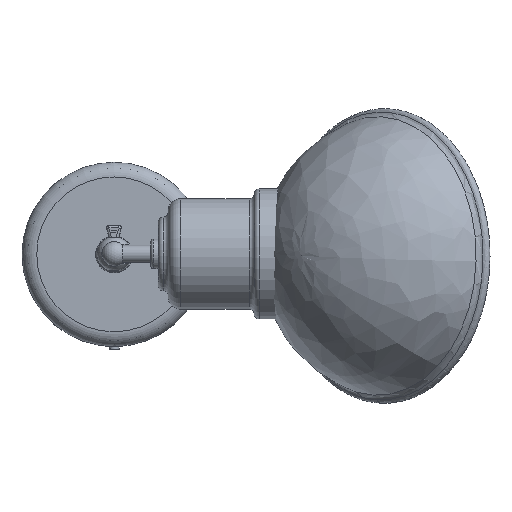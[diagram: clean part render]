
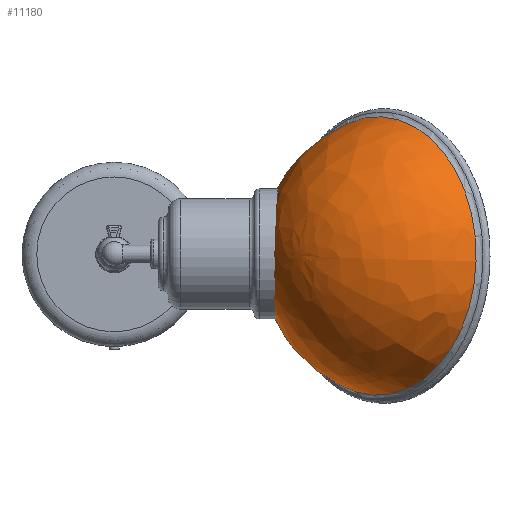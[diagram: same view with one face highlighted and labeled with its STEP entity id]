
A CAD part, top view. The second image highlights one B-rep face of the part: STEP entity #11180.
In plain terms, the highlighted free-form (B-spline) face has degree [2, 2] with [3, 9] control points.
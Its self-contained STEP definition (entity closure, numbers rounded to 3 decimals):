
#385=(
BOUNDED_SURFACE()
B_SPLINE_SURFACE(2,2,((#19386,#19387,#19388,#19389,#19390,#19391,#19392,
#19393,#19394),(#19395,#19396,#19397,#19398,#19399,#19400,#19401,#19402,
#19403),(#19404,#19405,#19406,#19407,#19408,#19409,#19410,#19411,#19412)),
 .UNSPECIFIED.,.F.,.T.,.F.)
B_SPLINE_SURFACE_WITH_KNOTS((3,3),(3,2,2,2,3),(0.269,1.551),
(-3.142,-1.571,0.,1.571,3.142),
 .UNSPECIFIED.)
GEOMETRIC_REPRESENTATION_ITEM()
RATIONAL_B_SPLINE_SURFACE(((1.,0.707,1.,0.707,1.,
0.707,1.,0.707,1.),(0.801,0.567,
0.801,0.567,0.801,0.567,
0.801,0.567,0.801),(1.,0.707,
1.,0.707,1.,0.707,1.,0.707,1.)))
REPRESENTATION_ITEM('')
SURFACE()
);
#2180=FACE_OUTER_BOUND('',#2931,.T.);
#2931=EDGE_LOOP('',(#7740,#7741,#7742,#7743));
#3703=CIRCLE('',#12217,56.68);
#3704=CIRCLE('',#12218,56.68);
#3705=CIRCLE('',#12219,60.);
#4775=VERTEX_POINT('',#19381);
#4776=VERTEX_POINT('',#19383);
#4777=VERTEX_POINT('',#19413);
#5872=EDGE_CURVE('',#4776,#4775,#3703,.T.);
#5873=EDGE_CURVE('',#4775,#4776,#3704,.T.);
#5874=EDGE_CURVE('',#4777,#4775,#3705,.T.);
#7740=ORIENTED_EDGE('',*,*,#5874,.T.);
#7741=ORIENTED_EDGE('',*,*,#5873,.T.);
#7742=ORIENTED_EDGE('',*,*,#5872,.T.);
#7743=ORIENTED_EDGE('',*,*,#5874,.F.);
#11180=ADVANCED_FACE('',(#2180),#385,.F.);
#12217=AXIS2_PLACEMENT_3D('',#19384,#14107,#14108);
#12218=AXIS2_PLACEMENT_3D('',#19385,#14109,#14110);
#12219=AXIS2_PLACEMENT_3D('',#19414,#14111,#14112);
#14107=DIRECTION('center_axis',(0.,1.,0.));
#14108=DIRECTION('ref_axis',(1.,0.,0.));
#14109=DIRECTION('center_axis',(0.,1.,0.));
#14110=DIRECTION('ref_axis',(1.,0.,0.));
#14111=DIRECTION('center_axis',(-1.,0.,0.));
#14112=DIRECTION('ref_axis',(0.,0.,-1.));
#19381=CARTESIAN_POINT('',(58.,5.957,-56.68));
#19383=CARTESIAN_POINT('',(1.32,5.957,0.));
#19384=CARTESIAN_POINT('Origin',(58.,5.957,0.));
#19385=CARTESIAN_POINT('Origin',(58.,5.957,0.));
#19386=CARTESIAN_POINT('Ctrl Pts',(58.,5.957,-56.68));
#19387=CARTESIAN_POINT('Ctrl Pts',(1.32,5.957,-56.68));
#19388=CARTESIAN_POINT('Ctrl Pts',(1.32,5.957,0.));
#19389=CARTESIAN_POINT('Ctrl Pts',(1.32,5.957,56.68));
#19390=CARTESIAN_POINT('Ctrl Pts',(58.,5.957,56.68));
#19391=CARTESIAN_POINT('Ctrl Pts',(114.68,5.957,56.68));
#19392=CARTESIAN_POINT('Ctrl Pts',(114.68,5.957,0.));
#19393=CARTESIAN_POINT('Ctrl Pts',(114.68,5.957,-56.68));
#19394=CARTESIAN_POINT('Ctrl Pts',(58.,5.957,-56.68));
#19395=CARTESIAN_POINT('Ctrl Pts',(58.,49.132,-44.777));
#19396=CARTESIAN_POINT('Ctrl Pts',(13.223,49.132,-44.777));
#19397=CARTESIAN_POINT('Ctrl Pts',(13.223,49.132,0.));
#19398=CARTESIAN_POINT('Ctrl Pts',(13.223,49.132,44.777));
#19399=CARTESIAN_POINT('Ctrl Pts',(58.,49.132,44.777));
#19400=CARTESIAN_POINT('Ctrl Pts',(102.777,49.132,44.777));
#19401=CARTESIAN_POINT('Ctrl Pts',(102.777,49.132,0.));
#19402=CARTESIAN_POINT('Ctrl Pts',(102.777,49.132,-44.777));
#19403=CARTESIAN_POINT('Ctrl Pts',(58.,49.132,-44.777));
#19404=CARTESIAN_POINT('Ctrl Pts',(58.,50.,0.));
#19405=CARTESIAN_POINT('Ctrl Pts',(58.,50.,0.));
#19406=CARTESIAN_POINT('Ctrl Pts',(58.,50.,0.));
#19407=CARTESIAN_POINT('Ctrl Pts',(58.,50.,0.));
#19408=CARTESIAN_POINT('Ctrl Pts',(58.,50.,0.));
#19409=CARTESIAN_POINT('Ctrl Pts',(58.,50.,0.));
#19410=CARTESIAN_POINT('Ctrl Pts',(58.,50.,0.));
#19411=CARTESIAN_POINT('Ctrl Pts',(58.,50.,0.));
#19412=CARTESIAN_POINT('Ctrl Pts',(58.,50.,0.));
#19413=CARTESIAN_POINT('',(58.,50.,0.));
#19414=CARTESIAN_POINT('Origin',(58.,-9.989,1.163));
